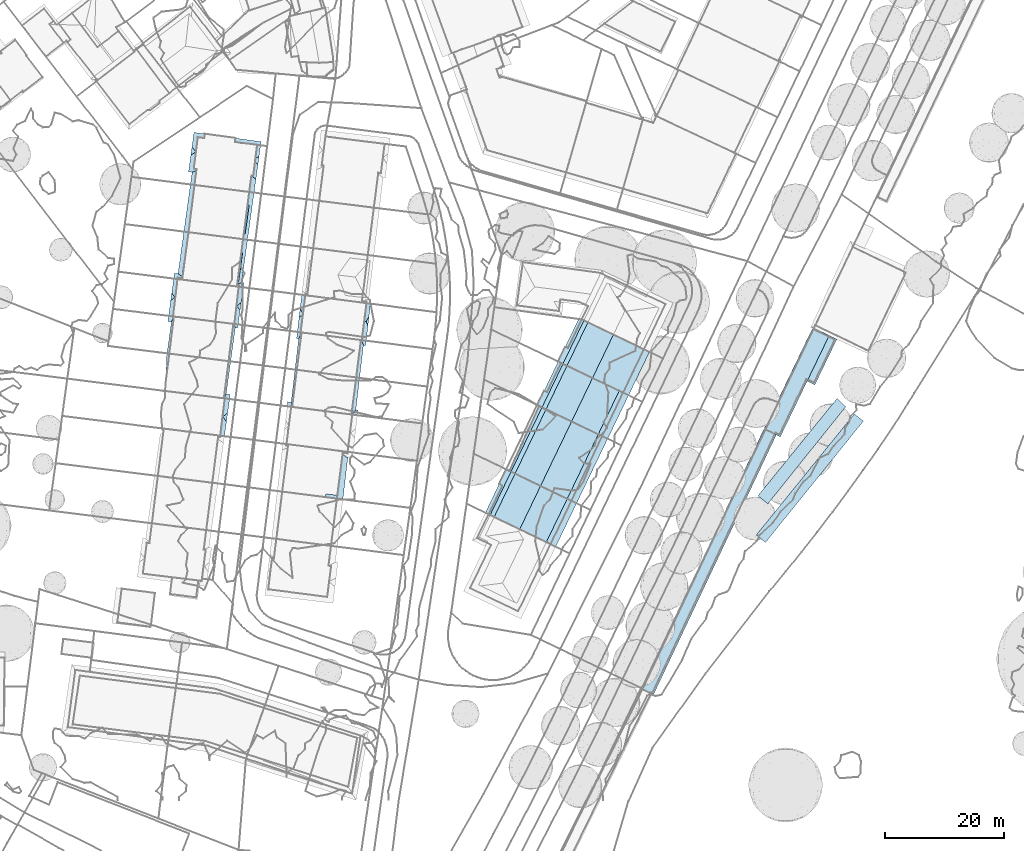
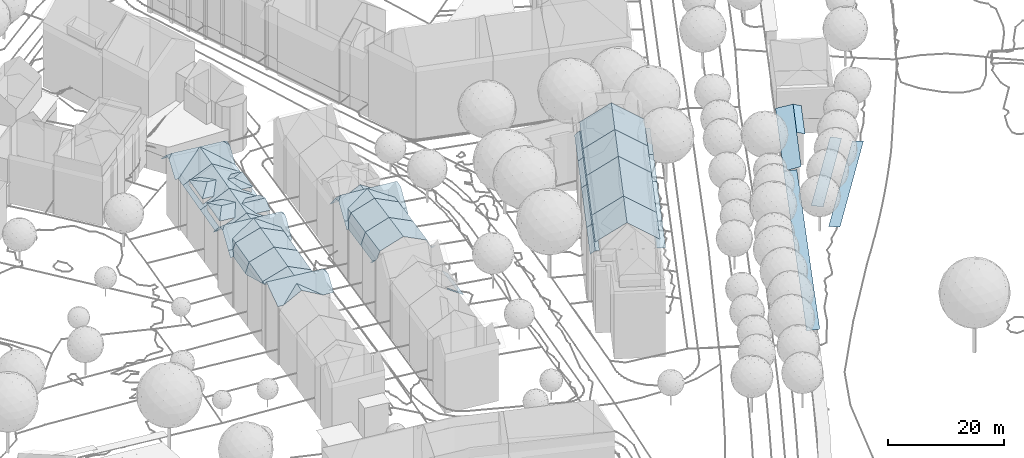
# Not in any storey, part 73 of 477: 27 roofs.
"""IFC4 building model written with IfcOpenShell, lengths in metres."""

from ifc_helpers import new_model, si_unit, frame, origin_with_axes, place, context, subcontext, project, spatial, polygons, element, save


model = new_model("IFC4")

# Units and contexts
model_context = context("Model", 3, precision=1e-05, world=origin_with_axes())
body_context = subcontext(model_context, "Body", "Model", "MODEL_VIEW")
ifc_project = project(units=[si_unit("AREAUNIT", "SQUARE_METRE"), si_unit("LENGTHUNIT", "METRE")], contexts=[model_context])

# Sites, building
site_1_placement = place(None, origin_with_axes())
site_1 = spatial("IfcSite", under=ifc_project, at=site_1_placement, Name="Topoexport Site")
site_2_placement = place(site_1_placement, origin_with_axes())
site_2 = spatial("IfcSite", under=site_1, at=site_2_placement, Name="TPX_BUILDINGS")
building_1_placement = place(site_2_placement, frame((495.5237320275, 54.2186160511, 497.0566), z_axis=(0.0, 0.0, 1.0), x_axis=(1.0, 0.0, 0.0)))
building_1 = spatial("IfcBuilding", under=site_2, at=building_1_placement, Name="Building 9", CompositionType="ELEMENT")

# Roofs
roof_1_placement = place(None, frame((495.5237320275, 54.2186160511, 497.0566), z_axis=(0.0, 0.0, 1.0), x_axis=(1.0, 0.0, 0.0)))
element("IfcRoof", 1, at=roof_1_placement, inside=building_1, Name="Roof 0", context=body_context, shape_type="Tessellation", body=[
    polygons([(0.805999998, -0.3886999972, 16.1765), (5.0979999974, 6.7939000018, 16.1765), (1.4809999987, -0.7148999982, 16.1765), (6.0159999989, 10.4266999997, 16.1765), (6.6919999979, 10.1035000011, 16.1765)], [[[3, 2, 1]], [[2, 5, 4]], [[2, 4, 1]]]),
])
roof_2_placement = place(None, frame((495.5237320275, 54.2186160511, 497.0566), z_axis=(0.0, 0.0, 1.0), x_axis=(1.0, 0.0, 0.0)))
element("IfcRoof", 2, at=roof_2_placement, inside=building_1, Name="Roof 1", context=body_context, shape_type="Tessellation", body=[
    polygons([(0.5759999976, -0.2784000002, 15.9745), (1.5599999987, 1.8789000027, 15.9345), (0.805999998, -0.3886999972, 16.1765), (2.8189999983, 4.638600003, 15.8845), (5.5590000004, 10.6464000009, 15.7755), (6.0159999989, 10.4266999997, 16.1765), (0.5370000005, -0.2588, 15.9395), (0.0, 0.0, 15.4665), (2.3440000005, 4.8662, 15.4665), (5.2080000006, 10.8144000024, 15.4665)], [[[3, 2, 1]], [[2, 3, 4]], [[4, 6, 5]], [[6, 4, 3]], [[1, 2, 7]], [[9, 8, 7]], [[7, 2, 9]], [[4, 5, 10]], [[10, 9, 4]], [[4, 9, 2]]]),
])
roof_3_placement = place(None, frame((495.5237320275, 54.2186160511, 497.0566), z_axis=(0.0, 0.0, 1.0), x_axis=(1.0, 0.0, 0.0)))
element("IfcRoof", 3, at=roof_3_placement, inside=building_1, Name="Roof 2", context=body_context, shape_type="Tessellation", body=[
    polygons([(11.8229999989, -5.7099999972, 16.1765), (10.2449999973, -4.9483000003, 16.1765), (12.2119999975, -0.8652999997, 16.1765), (15.4690000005, 5.8964000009, 16.1765), (17.0480000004, 5.1405999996, 16.1765)], [[[3, 2, 1]], [[5, 4, 3]], [[5, 3, 1]]]),
])
roof_4_placement = place(None, frame((495.5237320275, 54.2186160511, 497.0566), z_axis=(0.0, 0.0, 1.0), x_axis=(1.0, 0.0, 0.0)))
element("IfcRoof", 4, at=roof_4_placement, inside=building_1, Name="Roof 3", context=body_context, shape_type="Tessellation", body=[
    polygons([(16.1459999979, 5.5722000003, 18.0403), (10.9210000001, -5.2744999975, 18.0403), (10.2449999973, -4.9483000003, 18.5382), (10.9839999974, 8.0459000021, 21.8379), (5.7670000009, -2.7851999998, 21.8379), (15.4690000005, 5.8974000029, 18.5382), (6.6919999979, 10.1025000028, 18.5572), (1.4809999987, -0.7148999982, 18.5572), (0.805999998, -0.3886999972, 18.0403), (6.0159999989, 10.4266999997, 18.0403)], [[[3, 2, 1]], [[5, 3, 4]], [[3, 6, 4]], [[6, 3, 1]], [[8, 5, 7]], [[9, 8, 7]], [[7, 10, 9]], [[4, 7, 5]]]),
])

# Building
building_2_placement = place(site_2_placement, frame((504.2517320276, 72.3416160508, 498.9665), z_axis=(0.0, 0.0, 1.0), x_axis=(1.0, 0.0, 0.0)))
building_2 = spatial("IfcBuilding", under=site_2, at=building_2_placement, Name="Building 14", CompositionType="ELEMENT")

# Roofs
roof_5_placement = place(None, frame((504.2517320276, 72.3416160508, 498.9665), z_axis=(0.0, 0.0, 1.0), x_axis=(1.0, 0.0, 0.0)))
element("IfcRoof", 5, at=roof_5_placement, inside=building_2, Name="Roof 0", context=body_context, shape_type="Tessellation", body=[
    polygons([(1.1909999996, 2.4736000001, 13.5567), (0.8079999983, -0.3866999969, 14.2666), (0.0, 0.0, 13.5567), (3.9849999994, 7.0654000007, 13.9726), (4.0260000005, 7.0596000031, 14.0036), (3.4389999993, 7.1425999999, 13.5567), (4.3259999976, 6.9150000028, 14.2666), (5.0020000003, 6.5898000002, 14.2666), (1.4849999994, -0.7108999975, 14.2666)], [[[3, 2, 1]], [[1, 2, 4]], [[5, 4, 2]], [[6, 1, 4]], [[2, 7, 5]], [[7, 2, 8]], [[8, 2, 9]]]),
])
roof_6_placement = place(None, frame((504.2517320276, 72.3416160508, 498.9665), z_axis=(0.0, 0.0, 1.0), x_axis=(1.0, 0.0, 0.0)))
element("IfcRoof", 6, at=roof_6_placement, inside=building_2, Name="Roof 1", context=body_context, shape_type="Tessellation", body=[
    polygons([(15.3509999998, 1.6162, 14.2666), (11.8420000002, -5.6699000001, 14.2666), (11.3829999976, -4.306599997, 14.2666), (14.4289999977, 2.0596000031, 14.2666), (10.9389999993, -5.2372999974, 14.2666), (12.2359999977, -2.5263999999, 14.2076)], [[[3, 2, 1]], [[3, 1, 4]], [[5, 2, 3]], [[6, 5, 3]]]),
])
roof_7_placement = place(None, frame((504.2517320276, 72.3416160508, 498.9665), z_axis=(0.0, 0.0, 1.0), x_axis=(1.0, 0.0, 0.0)))
element("IfcRoof", 7, at=roof_7_placement, inside=building_2, Name="Roof 2", context=body_context, shape_type="Tessellation", body=[
    polygons([(10.9389999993, -5.2372999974, 16.1304), (14.4289999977, 2.0596000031, 16.1454), (14.4499999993, 2.0488000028, 16.1304), (5.7769999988, -2.7655999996, 19.927), (9.2909999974, 4.5293000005, 19.927), (1.4849999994, -0.7108999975, 16.6474), (4.3259999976, 6.9150000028, 16.1304), (5.0020000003, 6.5898000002, 16.6474), (0.8079999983, -0.3866999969, 16.1304)], [[[3, 2, 1]], [[5, 4, 1]], [[5, 1, 2]], [[8, 7, 6]], [[5, 8, 4]], [[6, 4, 8]], [[9, 6, 7]]]),
])

# Building
building_3_placement = place(site_2_placement, frame((500.7317320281, 65.0330160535, 498.9665), z_axis=(0.0, 0.0, 1.0), x_axis=(1.0, 0.0, 0.0)))
building_3 = spatial("IfcBuilding", under=site_2, at=building_3_placement, Name="Building 16", CompositionType="ELEMENT")

# Roofs
roof_8_placement = place(None, frame((500.7317320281, 65.0330160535, 498.9665), z_axis=(0.0, 0.0, 1.0), x_axis=(1.0, 0.0, 0.0)))
element("IfcRoof", 8, at=roof_8_placement, inside=building_3, Name="Roof 0", context=body_context, shape_type="Tessellation", body=[
    polygons([(1.175999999, 2.441399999, 13.5566), (0.8079999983, -0.3877000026, 14.2666), (0.0, 0.0, 13.5566), (4.3279999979, 6.9219000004, 14.2666), (3.5199999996, 7.3085999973, 13.5567), (4.0119999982, 7.0722999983, 13.9886), (3.4439999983, 3.3583999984, 14.2666), (1.4839999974, -0.7109000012, 14.2666), (5.004999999, 6.5976999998, 14.2666)], [[[3, 2, 1]], [[1, 2, 4]], [[6, 5, 1]], [[4, 6, 1]], [[4, 2, 7]], [[7, 2, 8]], [[7, 9, 4]]]),
])
roof_9_placement = place(None, frame((500.7317320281, 65.0330160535, 498.9665), z_axis=(0.0, 0.0, 1.0), x_axis=(1.0, 0.0, 0.0)))
element("IfcRoof", 9, at=roof_9_placement, inside=building_3, Name="Roof 1", context=body_context, shape_type="Tessellation", body=[
    polygons([(15.3619999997, 1.6386999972, 14.2666), (11.8399999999, -5.6738000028, 14.2666), (13.7829999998, 2.3944999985, 14.2666), (10.2609999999, -4.9180000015, 14.2666)], [[[3, 2, 1]], [[2, 3, 4]]]),
])
roof_10_placement = place(None, frame((500.7317320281, 65.0330160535, 498.9665), z_axis=(0.0, 0.0, 1.0), x_axis=(1.0, 0.0, 0.0)))
element("IfcRoof", 10, at=roof_10_placement, inside=building_3, Name="Roof 2", context=body_context, shape_type="Tessellation", body=[
    polygons([(10.2609999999, -4.9180000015, 16.6273), (5.7759999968, -2.7685000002, 19.928), (9.2969999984, 4.5429999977, 19.927), (10.9379999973, -5.2422000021, 16.1304), (13.7829999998, 2.3944999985, 16.6283), (14.4599999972, 2.0702999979, 16.1304), (1.4839999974, -0.7109000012, 16.6473), (0.8079999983, -0.3877000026, 16.1304), (4.3279999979, 6.9219000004, 16.1304), (5.004999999, 6.5976999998, 16.6474)], [[[3, 2, 1]], [[5, 1, 4]], [[5, 3, 1]], [[6, 5, 4]], [[9, 8, 7]], [[10, 7, 2]], [[7, 10, 9]], [[10, 2, 3]]]),
])

# Building
building_4_placement = place(site_2_placement, frame((492.5717320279, 46.6580160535, 498.9665), z_axis=(0.0, 0.0, 1.0), x_axis=(1.0, 0.0, 0.0)))
building_4 = spatial("IfcBuilding", under=site_2, at=building_4_placement, Name="Building 17", CompositionType="ELEMENT")

# Roofs
roof_11_placement = place(None, frame((492.5717320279, 46.6580160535, 498.9665), z_axis=(0.0, 0.0, 1.0), x_axis=(1.0, 0.0, 0.0)))
element("IfcRoof", 11, at=roof_11_placement, inside=building_4, Name="Roof 0", context=body_context, shape_type="Tessellation", body=[
    polygons([(0.2469999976, -0.1191000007, 14.2666), (3.5279999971, 7.2821999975, 14.0646), (3.7579999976, 7.1719000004, 14.2666), (0.1689999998, -0.0820000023, 14.1986), (0.0, 0.0, 14.0496), (1.7639999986, 5.0946999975, 13.5566), (-0.5590000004, 0.2694999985, 13.5566), (2.9519999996, 7.5605999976, 13.5566), (4.4329999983, 6.8456999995, 14.2666), (0.9230000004, -0.4453000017, 14.2666)], [[[3, 2, 1]], [[4, 1, 2]], [[5, 4, 2]], [[7, 5, 6]], [[5, 8, 6]], [[8, 5, 2]], [[9, 3, 1]], [[10, 9, 1]]]),
])
roof_12_placement = place(None, frame((492.5717320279, 46.6580160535, 498.9665), z_axis=(0.0, 0.0, 1.0), x_axis=(1.0, 0.0, 0.0)))
element("IfcRoof", 12, at=roof_12_placement, inside=building_4, Name="Roof 1", context=body_context, shape_type="Tessellation", body=[
    polygons([(13.1979999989, 2.6122999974, 14.2666), (14.7749999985, 1.8506000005, 14.2666), (9.6889999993, -4.6719000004, 14.2665), (11.2669999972, -5.433600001, 14.2665)], [[[3, 2, 1]], [[3, 4, 2]]]),
])
roof_13_placement = place(None, frame((492.5717320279, 46.6580160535, 498.9665), z_axis=(0.0, 0.0, 1.0), x_axis=(1.0, 0.0, 0.0)))
element("IfcRoof", 13, at=roof_13_placement, inside=building_4, Name="Roof 2", context=body_context, shape_type="Tessellation", body=[
    polygons([(13.8729999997, 2.2861000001, 16.1304), (9.6889999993, -4.6719000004, 16.6283), (13.1979999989, 2.6122999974, 16.6283), (8.7190000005, 4.7753999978, 19.928), (5.2089999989, -2.5127000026, 19.928), (10.3649999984, -4.9979999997, 16.1304), (0.9230000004, -0.4453000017, 16.6473), (4.4329999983, 6.8456999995, 16.6473), (3.7579999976, 7.1719000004, 16.1304), (0.2469999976, -0.1191000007, 16.1304)], [[[3, 2, 1]], [[5, 3, 4]], [[2, 6, 1]], [[5, 2, 3]], [[8, 7, 4]], [[10, 8, 9]], [[7, 5, 4]], [[10, 7, 8]]]),
])

# Building
building_5_placement = place(site_2_placement, frame((211.8297320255, 101.9383160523, 526.7541), z_axis=(0.0, 0.0, 1.0), x_axis=(1.0, 0.0, 0.0)))
building_5 = spatial("IfcBuilding", under=site_2, at=building_5_placement, Name="Building 18", CompositionType="ELEMENT")

# Roofs
roof_14_placement = place(None, frame((211.8297320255, 101.9383160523, 526.7541), z_axis=(0.0, 0.0, 1.0), x_axis=(1.0, 0.0, 0.0)))
element("IfcRoof", 14, at=roof_14_placement, inside=building_5, Name="Roof 62", context=body_context, shape_type="Tessellation", body=[
    polygons([(342.2039999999, -38.3740000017, -22.0733), (327.2760000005, -59.9833999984, -21.9033), (325.7380000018, -58.7030999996, -22.0753), (343.7420000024, -39.5694000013, -21.9053)], [[[3, 2, 1]], [[4, 1, 2]]]),
])
roof_15_placement = place(None, frame((211.8297320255, 101.9383160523, 526.7541), z_axis=(0.0, 0.0, 1.0), x_axis=(1.0, 0.0, 0.0)))
element("IfcRoof", 15, at=roof_15_placement, inside=building_5, Name="Roof 63", context=body_context, shape_type="Tessellation", body=[
    polygons([(326.012000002, -52.1376999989, -21.7343), (339.3080000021, -35.7685999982, -21.7343), (340.7730000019, -37.1563000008, -21.7343), (327.6770000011, -53.4814999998, -21.7343)], [[[3, 2, 1]], [[1, 4, 3]]]),
])
roof_16_placement = place(None, frame((211.8297320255, 101.9383160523, 526.7541), z_axis=(0.0, 0.0, 1.0), x_axis=(1.0, 0.0, 0.0)))
element("IfcRoof", 16, at=roof_16_placement, inside=building_5, Name="Roof 65", context=body_context, shape_type="Tessellation", body=[
    polygons([(335.1650000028, -24.5771999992, -21.4983), (335.2440000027, -23.8379000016, -21.5603), (337.9959999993, -25.1651000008, -20.7984), (334.393000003, -32.6328000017, -20.7984), (334.2840000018, -32.8574000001, -20.7984), (334.3120000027, -32.5938000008, -20.8204), (327.6119999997, -40.2362999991, -21.5403), (333.6909999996, -33.5137000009, -20.8644), (327.0170000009, -40.8944999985, -21.6063), (335.574000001, -33.4794999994, -21.2213), (339.2840000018, -25.7861000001, -21.2213), (329.0910000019, -41.8964999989, -20.9864), (332.5610000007, -35.8555000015, -20.8604), (329.7690000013, -42.2226999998, -20.7984), (327.2420000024, -41.003899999, -21.5393), (310.5970000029, -80.4120999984, -21.4233), (329.0910000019, -41.8964999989, -21.3993), (308.4730000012, -85.5243999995, -21.3993), (324.995000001, -45.7617000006, -21.5833), (328.0210000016, -41.379900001, -21.5063), (328.8660000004, -41.7870999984, -21.4213), (327.2420000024, -41.003899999, -21.5843), (308.262000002, -85.4862999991, -21.4213), (308.0360000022, -85.378899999, -21.4493), (306.381000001, -84.5868999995, -21.6513), (328.8660000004, -41.7870999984, -21.6213), (328.5730000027, -41.6455000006, -21.6293), (327.4970000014, -41.1270000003, -21.6663)], [[[3, 2, 1]], [[6, 5, 4]], [[3, 1, 4]], [[4, 1, 6]], [[1, 2, 7]], [[6, 1, 8]], [[9, 7, 2]], [[5, 6, 8]], [[8, 1, 7]], [[5, 10, 4]], [[4, 10, 3]], [[11, 3, 10]], [[14, 13, 12]], [[13, 14, 5]], [[5, 8, 13]], [[13, 8, 7]], [[7, 9, 15]], [[12, 13, 15]], [[13, 7, 15]], [[18, 17, 16]], [[20, 19, 16]], [[16, 17, 21]], [[20, 22, 19]], [[22, 9, 19]], [[20, 16, 21]], [[18, 16, 23]], [[23, 16, 24]], [[19, 9, 25]], [[25, 24, 19]], [[19, 24, 16]], [[28, 27, 26]]]),
])

# Building
building_6_placement = place(site_2_placement, frame((439.5667320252, 79.9246160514, 499.5705), z_axis=(0.0, 0.0, 1.0), x_axis=(1.0, 0.0, 0.0)))
building_6 = spatial("IfcBuilding", under=site_2, at=building_6_placement, Name="Building 44", CompositionType="ELEMENT")

# Roof
roof_17_placement = place(None, frame((439.5667320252, 79.9246160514, 499.5705), z_axis=(0.0, 0.0, 1.0), x_axis=(1.0, 0.0, 0.0)))
element("IfcRoof", 17, at=roof_17_placement, inside=building_6, Name="Roof 0", context=body_context, shape_type="Tessellation", body=[
    polygons([(6.074000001, 5.6016000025, 14.5366), (9.949000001, 5.1162, 12.2668), (5.7740000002, 3.4365000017, 14.5366), (2.3210000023, 6.0713, 12.3688), (5.6410000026, 2.4824000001, 15.5125), (9.7310000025, 0.0752000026, 13.5987), (9.5560000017, -1.1875, 13.5987), (5.2080000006, -0.6464999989, 15.5125), (0.7019999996, 1.2050999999, 13.5987), (0.5260000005, -0.0643999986, 13.5987), (0.0, 0.0, 12.3268), (-0.7819999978, 0.0967000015, 12.3158), (-0.4230000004, 2.6963, 14.9015), (0.1130000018, -0.0136999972, 12.3288), (0.262000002, 3.2276000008, 15.5125), (10.7010000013, 1.7822000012, 15.5135), (-0.2449999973, 3.9697000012, 14.8376), (0.0850000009, 6.3516000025, 12.3968), (11.4240000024, 2.3544999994, 14.8375), (11.0370000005, 4.9805000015, 12.2518), (11.7750000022, 4.8867000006, 12.2428), (10.2280000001, -1.2714999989, 12.2698), (11.2470000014, 1.0800999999, 14.8615), (10.3030000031, -1.2811999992, 12.2708), (10.9090000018, -1.3563999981, 12.2788)], [[[3, 2, 1]], [[4, 3, 1]], [[7, 6, 5]], [[5, 8, 7]], [[8, 5, 9]], [[9, 10, 8]], [[9, 12, 11]], [[9, 13, 12]], [[11, 14, 9]], [[5, 15, 13]], [[13, 9, 5]], [[16, 3, 5]], [[3, 15, 5]], [[3, 17, 15]], [[17, 4, 18]], [[17, 3, 4]], [[3, 19, 2]], [[19, 3, 16]], [[2, 19, 20]], [[20, 19, 21]], [[22, 6, 7]], [[5, 6, 16]], [[16, 6, 23]], [[25, 6, 24]], [[23, 6, 25]], [[24, 6, 22]], [[23, 19, 16]], [[9, 14, 10]], [[17, 13, 15]]]),
])

# Building
building_7_placement = place(site_2_placement, frame((440.3257320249, 86.1922160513, 499.5705), z_axis=(0.0, 0.0, 1.0), x_axis=(1.0, 0.0, 0.0)))
building_7 = spatial("IfcBuilding", under=site_2, at=building_7_placement, Name="Building 45", CompositionType="ELEMENT")

# Roof
roof_18_placement = place(None, frame((440.3257320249, 86.1922160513, 499.5705), z_axis=(0.0, 0.0, 1.0), x_axis=(1.0, 0.0, 0.0)))
element("IfcRoof", 18, at=roof_18_placement, inside=building_7, Name="Roof 0", context=body_context, shape_type="Tessellation", body=[
    polygons([(8.2420000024, 4.8280999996, 13.2887), (6.1760000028, 2.5243999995, 14.2946), (6.4160000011, 7.2919999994, 14.5366), (5.3150000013, -0.6659999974, 14.5366), (11.0130000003, 6.7030999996, 11.8428), (10.7250000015, 4.4932000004, 11.8318), (11.7290000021, 6.6113000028, 11.4229), (8.5830000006, 4.7822000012, 13.0887), (10.7410000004, -0.5273999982, 11.4229), (7.5610000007, -0.0878999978, 13.2887), (7.9030000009, -0.1347999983, 13.0887), (9.1900000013, -1.1513999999, 12.2668), (10.0840000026, -0.4355999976, 11.8088), (3.5700000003, 0.4648000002, 13.4567), (1.5620000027, -0.1963, 12.3688), (5.450000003, 3.3877000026, 14.2946), (3.2230000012, 0.5127000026, 13.2567), (0.9070000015, 0.8340000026, 11.9158), (0.8420000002, 0.3535000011, 11.9158), (0.0560000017, 0.9521000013, 11.4229), (1.7050000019, 6.7637000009, 11.9018), (4.3950000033, 6.4238000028, 13.4567), (4.0490000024, 6.4678000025, 13.2567), (1.0300000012, 7.9814000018, 11.4229), (2.8220000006, 3.7217000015, 14.2946), (1.7050000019, 6.7637000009, 13.4567), (1.5830000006, 6.7783000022, 13.4567), (0.9420000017, 1.1035000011, 13.5297), (0.7630000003, 0.8535000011, 13.4567), (10.7250000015, 4.4932000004, 13.2887), (10.5560000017, 1.9345999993, 14.2946), (10.9070000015, 4.4697000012, 13.2887), (0.9060000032, 0.8340000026, 13.4567), (10.0840000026, -0.4355999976, 13.2887), (10.2250000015, -0.4550999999, 13.2887), (11.0160000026, -1.3808999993, 12.2418), (11.1270000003, -0.5800999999, 11.4229), (0.0, 0.0, 12.3878), (-0.5429999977, 1.0331999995, 11.4229), (-0.6739999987, 0.0840000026, 12.3968)], [[[3, 2, 1]], [[2, 3, 4]], [[3, 1, 5]], [[7, 5, 6]], [[8, 6, 5]], [[5, 1, 8]], [[7, 6, 9]], [[12, 11, 10]], [[4, 10, 2]], [[12, 10, 4]], [[13, 9, 6]], [[12, 9, 13]], [[13, 11, 12]], [[15, 4, 14]], [[14, 4, 16]], [[15, 14, 17]], [[19, 15, 18]], [[18, 20, 19]], [[21, 20, 18]], [[15, 17, 18]], [[16, 3, 22]], [[3, 16, 4]], [[22, 3, 23]], [[21, 23, 24]], [[23, 3, 24]], [[21, 24, 20]], [[16, 22, 25]], [[25, 22, 26]], [[26, 27, 25]], [[28, 25, 27]], [[29, 28, 27]], [[1, 31, 30]], [[31, 1, 2]], [[31, 32, 30]], [[14, 16, 28]], [[28, 16, 25]], [[28, 29, 33]], [[28, 33, 14]], [[31, 2, 34]], [[34, 2, 10]], [[35, 31, 34]], [[12, 36, 9]], [[37, 9, 36]], [[38, 15, 19]], [[40, 38, 39]], [[19, 20, 39]], [[19, 39, 38]]]),
])

# Building
building_8_placement = place(site_2_placement, frame((442.1807320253, 94.0682160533, 499.5705), z_axis=(0.0, 0.0, 1.0), x_axis=(1.0, 0.0, 0.0)))
building_8 = spatial("IfcBuilding", under=site_2, at=building_8_placement, Name="Building 46", CompositionType="ELEMENT")

# Roof
roof_19_placement = place(None, frame((442.1807320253, 94.0682160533, 499.5705), z_axis=(0.0, 0.0, 1.0), x_axis=(1.0, 0.0, 0.0)))
element("IfcRoof", 19, at=roof_19_placement, inside=building_8, Name="Roof 0", context=body_context, shape_type="Tessellation", body=[
    polygons([(8.075000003, 4.927699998, 12.9527), (5.6590000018, 7.3456999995, 14.5366), (10.1900000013, 6.7645999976, 11.8809), (6.1710000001, 2.7567999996, 13.8767), (8.4150000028, 4.8797999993, 12.7528), (9.9170000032, 4.6688999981, 11.8708), (10.9720000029, 6.6640000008, 11.4229), (9.8740000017, -1.2646999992, 11.4229), (7.3949999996, 0.0174999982, 12.9527), (4.5610000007, -0.5840000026, 14.5366), (9.1579999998, -1.1729000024, 11.8428), (7.7360000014, -0.0303000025, 12.7528), (9.2780000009, -0.2470999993, 11.8468), (0.8740000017, 6.9442999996, 11.8499), (0.2730000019, 8.0350999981, 11.4229), (0.9990000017, 7.9422999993, 11.8429), (0.6770000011, 5.4061999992, 11.8589), (0.443, 3.5506999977, 11.8729), (2.5789999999, 6.7148000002, 12.8368), (4.2470000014, 3.4217999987, 14.0426), (2.9250000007, 6.6678999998, 13.0367), (-0.8249999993, 0.1053999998, 11.4229), (0.0990000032, 0.7909999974, 11.8939), (0.0, 0.0, 11.8999), (1.7280000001, 0.5702999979, 12.8368), (2.075000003, 0.5233999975, 13.0367), (2.6030000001, 3.6435000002, 14.0426), (0.8420000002, 6.9481999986, 13.0367), (0.8740000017, 6.9442999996, 13.0367), (-0.0079999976, 0.8055999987, 13.0367), (0.1000000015, 0.7909999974, 13.0367), (7.3030000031, 2.5975999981, 13.8767), (9.4850000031, -0.2763999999, 12.9527), (9.2780000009, -0.2470999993, 12.9527), (10.1650000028, 4.6338, 12.9527), (9.9170000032, 4.6688999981, 12.9527), (8.9620000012, -0.2032000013, 12.9027)], [[[3, 2, 1]], [[1, 2, 4]], [[3, 1, 5]], [[7, 3, 6]], [[6, 3, 5]], [[7, 6, 8]], [[4, 10, 9]], [[10, 4, 2]], [[9, 10, 11]], [[13, 12, 11]], [[11, 8, 13]], [[12, 9, 11]], [[13, 8, 6]], [[16, 15, 14]], [[17, 14, 15]], [[15, 18, 17]], [[16, 14, 19]], [[2, 21, 20]], [[2, 16, 21]], [[16, 19, 21]], [[2, 20, 10]], [[23, 18, 22]], [[23, 22, 24]], [[18, 15, 22]], [[26, 25, 24]], [[24, 10, 26]], [[25, 23, 24]], [[10, 20, 26]], [[29, 28, 27]], [[21, 27, 20]], [[27, 21, 29]], [[28, 30, 27]], [[20, 27, 26]], [[26, 27, 31]], [[30, 31, 27]], [[34, 33, 32]], [[34, 4, 9]], [[4, 34, 32]], [[35, 32, 33]], [[1, 4, 36]], [[36, 4, 32]], [[35, 36, 32]], [[37, 34, 12]]]),
])

# Building
building_9_placement = place(site_2_placement, frame((438.9377320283, 73.6600160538, 499.5705), z_axis=(0.0, 0.0, 1.0), x_axis=(1.0, 0.0, 0.0)))
building_9 = spatial("IfcBuilding", under=site_2, at=building_9_placement, Name="Building 47", CompositionType="ELEMENT")

# Roof
roof_20_placement = place(None, frame((438.9377320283, 73.6600160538, 499.5705), z_axis=(0.0, 0.0, 1.0), x_axis=(1.0, 0.0, 0.0)))
element("IfcRoof", 20, at=roof_20_placement, inside=building_9, Name="Roof 0", context=body_context, shape_type="Tessellation", body=[
    polygons([(5.8369999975, 5.6180999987, 15.5125), (9.3189999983, -1.1739000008, 13.5977), (4.9719999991, -0.6270000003, 15.5125), (10.1849999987, 5.0770999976, 13.5987), (1.1549999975, 6.2001999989, 13.5987), (0.2919999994, -0.0381000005, 13.5987), (0.6269999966, 6.0126999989, 12.0808), (-0.1530000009, 6.3612999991, 12.3158), (0.6289999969, 6.2645999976, 12.3268), (0.7419999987, 6.2509000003, 12.3288), (0.3209999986, 5.3807999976, 11.4229), (-0.2770000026, 5.4637999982, 11.4229), (0.0, 0.0, 12.7017), (-0.4160000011, 0.0516999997, 11.4229), (11.5379999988, 4.9081999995, 12.2788), (11.0749999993, 4.4003999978, 11.6868), (10.9149999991, 4.8348999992, 12.1148), (11.4609999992, 4.3486000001, 11.6868), (10.856999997, 4.9930999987, 12.2698), (10.932, 4.9833999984, 12.2708), (9.9670000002, -1.255900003, 12.3178), (10.2859999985, -1.2959000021, 11.6868)], [[[3, 2, 1]], [[4, 1, 2]], [[6, 3, 5]], [[1, 5, 3]], [[9, 8, 7]], [[10, 9, 7]], [[8, 11, 7]], [[11, 8, 12]], [[13, 6, 5]], [[14, 13, 7]], [[10, 7, 13]], [[11, 14, 7]], [[13, 5, 10]], [[17, 16, 15]], [[15, 16, 18]], [[17, 20, 19]], [[20, 17, 15]], [[17, 19, 21]], [[21, 19, 4]], [[21, 16, 17]], [[22, 16, 21]], [[21, 4, 2]]]),
])

# Building
building_10_placement = place(site_2_placement, frame((438.2527320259, 67.3914160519, 499.5705), z_axis=(0.0, 0.0, 1.0), x_axis=(1.0, 0.0, 0.0)))
building_10 = spatial("IfcBuilding", under=site_2, at=building_10_placement, Name="Building 48", CompositionType="ELEMENT")

# Roof
roof_21_placement = place(None, frame((438.2527320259, 67.3914160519, 499.5705), z_axis=(0.0, 0.0, 1.0), x_axis=(1.0, 0.0, 0.0)))
element("IfcRoof", 21, at=roof_21_placement, inside=building_10, Name="Roof 0", context=body_context, shape_type="Tessellation", body=[
    polygons([(4.7919999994, -0.6024999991, 15.5125), (0.9770000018, 6.2305000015, 13.5987), (5.6570000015, 5.6416000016, 15.5125), (0.1119999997, -0.0137000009, 13.5987), (9.1400000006, -1.1493999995, 13.5976), (10.0040000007, 5.0947000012, 13.5977), (9.8940000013, -0.9296999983, 12.1918), (10.7930000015, -1.3574000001, 12.4907), (10.0040000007, -1.2588, 12.4997), (9.693, -1.2197000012, 12.5037), (10.2190000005, -0.4600000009, 11.6868), (10.9039999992, -0.552699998, 11.6868), (0.0, 0.0, 13.2537), (0.0410000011, 1.1455000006, 12.8987), (0.2109999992, 5.8993999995, 11.4229), (0.6850000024, 6.2686000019, 12.7017), (0.2690000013, 6.3203000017, 11.4229), (10.6520000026, 5.0126999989, 12.3178), (10.9710000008, 4.9726999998, 11.6868)], [[[3, 2, 1]], [[4, 1, 2]], [[6, 3, 5]], [[1, 5, 3]], [[9, 8, 7]], [[10, 9, 7]], [[7, 12, 11]], [[12, 7, 8]], [[14, 13, 2]], [[2, 13, 4]], [[16, 15, 14]], [[17, 15, 16]], [[16, 14, 2]], [[18, 6, 10]], [[19, 18, 11]], [[10, 7, 18]], [[11, 18, 7]], [[6, 5, 10]]]),
])

# Building
building_11_placement = place(site_2_placement, frame((443.0627320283, 104.7566160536, 499.5705), z_axis=(0.0, 0.0, 1.0), x_axis=(1.0, 0.0, 0.0)))
building_11 = spatial("IfcBuilding", under=site_2, at=building_11_placement, Name="Building 49", CompositionType="ELEMENT")

# Roof
roof_22_placement = place(None, frame((443.0627320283, 104.7566160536, 499.5705), z_axis=(0.0, 0.0, 1.0), x_axis=(1.0, 0.0, 0.0)))
element("IfcRoof", 22, at=roof_22_placement, inside=building_11, Name="Roof 0", context=body_context, shape_type="Tessellation", body=[
    polygons([(9.6659999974, -1.1816000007, 11.8959), (10.75, 0.745199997, 13.8817), (10.3999999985, -1.7851000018, 11.4229), (10.0899999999, -4.0243999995, 11.4229), (9.3079999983, -3.9238000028, 11.8809), (4.7769999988, -3.3427000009, 14.5366), (5.5379999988, 2.1534000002, 14.5366), (9.8779999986, 1.5517999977, 14.5366), (10.2789999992, 1.1807000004, 14.2356), (6.987999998, 5.1581999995, 11.4229), (10.3559999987, 1.7900999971, 14.2416), (10.9349999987, 2.0771999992, 13.8847), (11.2789999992, 4.5634999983, 11.4229), (0.4339999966, -0.2275000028, 11.8249), (-0.3220000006, -0.5800000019, 11.4229), (-0.9220000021, -0.4970000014, 11.4229), (0.3449999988, 2.8720999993, 14.5366), (-0.5320000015, 2.3066999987, 13.9337), (0.1169999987, -2.746100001, 11.8429), (-0.6090000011, -2.6533000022, 11.4229), (1.8369999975, 5.8720999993, 11.4229), (-0.3490000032, 3.6376999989, 13.8847), (-0.0050000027, 6.1270000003, 11.4229)], [[[3, 2, 1]], [[1, 4, 3]], [[1, 6, 5]], [[4, 1, 5]], [[8, 7, 1]], [[9, 1, 2]], [[1, 9, 8]], [[8, 10, 7]], [[10, 8, 11]], [[9, 2, 12]], [[9, 11, 8]], [[11, 9, 12]], [[12, 10, 11]], [[10, 12, 13]], [[16, 15, 14]], [[16, 14, 7]], [[18, 7, 17]], [[7, 18, 16]], [[6, 7, 19]], [[19, 7, 14]], [[20, 19, 14]], [[20, 14, 15]], [[6, 1, 7]], [[21, 7, 10]], [[7, 21, 17]], [[17, 21, 22]], [[22, 21, 23]], [[22, 18, 17]]]),
])

# Building
building_12_placement = place(site_2_placement, frame((437.5277320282, 63.6443160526, 499.5705), z_axis=(0.0, 0.0, 1.0), x_axis=(1.0, 0.0, 0.0)))
building_12 = spatial("IfcBuilding", under=site_2, at=building_12_placement, Name="Building 50", CompositionType="ELEMENT")

# Roof
roof_23_placement = place(None, frame((437.5277320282, 63.6443160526, 499.5705), z_axis=(0.0, 0.0, 1.0), x_axis=(1.0, 0.0, 0.0)))
element("IfcRoof", 23, at=roof_23_placement, inside=building_12, Name="Roof 0", context=body_context, shape_type="Tessellation", body=[
    polygons([(9.9599999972, -3.7666000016, 12.4687), (10.9899999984, -1.4101000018, 14.7795), (10.6529999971, -3.8535000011, 12.4777), (8.6629999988, -3.6044999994, 12.4527), (4.9649999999, -0.8476000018, 14.5296), (10.4149999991, -0.5390000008, 15.5125), (5.1089999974, 0.1953000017, 15.5125), (-0.0840000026, 0.9151000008, 15.5135), (4.6529999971, -3.1035000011, 14.5296), (11.1989999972, 0.0870000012, 14.7915), (9.7139999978, 1.5108000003, 13.5976), (10.4179999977, 2.5273999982, 12.5037), (10.7289999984, 2.4882999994, 12.4997), (11.5179999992, 2.3896999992, 12.4907), (4.1439999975, -3.0399999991, 14.1926), (1.2969999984, -2.683600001, 12.3228), (0.2329999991, -2.5507000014, 12.3058), (0.0, 0.0, 14.6665), (5.5169999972, 3.1446000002, 15.5125), (9.8649999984, 2.5976999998, 13.5976), (0.6849999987, 2.6347999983, 13.5987), (0.8369999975, 3.7333999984, 13.5987), (0.1939999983, 1.5361999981, 14.8215), (0.7249999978, 3.7470999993, 13.2537)], [[[3, 2, 1]], [[4, 1, 2]], [[2, 6, 5]], [[4, 2, 5]], [[8, 5, 7]], [[5, 6, 7]], [[4, 5, 9]], [[11, 7, 10]], [[13, 12, 11]], [[11, 14, 13]], [[14, 11, 10]], [[10, 7, 6]], [[5, 16, 15]], [[5, 15, 9]], [[16, 18, 17]], [[18, 16, 5]], [[8, 18, 5]], [[19, 7, 11]], [[11, 20, 19]], [[22, 21, 7]], [[7, 19, 22]], [[2, 10, 6]], [[11, 12, 20]], [[8, 7, 23]], [[21, 23, 7]], [[24, 21, 22]]]),
])

# Building
building_13_placement = place(site_2_placement, frame((460.3767320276, 70.9432160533, 499.4055), z_axis=(0.0, 0.0, 1.0), x_axis=(1.0, 0.0, 0.0)))
building_13 = spatial("IfcBuilding", under=site_2, at=building_13_placement, Name="Building 52", CompositionType="ELEMENT")

# Roof
roof_24_placement = place(None, frame((460.3767320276, 70.9432160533, 499.4055), z_axis=(0.0, 0.0, 1.0), x_axis=(1.0, 0.0, 0.0)))
element("IfcRoof", 24, at=roof_24_placement, inside=building_13, Name="Roof 0", context=body_context, shape_type="Tessellation", body=[
    polygons([(10.112999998, 5.0868999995, 14.1246), (9.3729999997, -1.2061000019, 14.1246), (4.932, -0.6358000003, 16.0924), (5.6710000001, 5.6532999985, 16.0924), (0.5439999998, -0.0703000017, 14.2016), (1.2829999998, 6.2137999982, 14.2016), (0.2639999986, 5.2870999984, 11.5829), (0.0, 0.0, 12.6107), (-0.3520000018, 0.0449000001, 11.5828), (0.6490000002, 6.0419999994, 12.4368), (0.7709999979, 6.2782999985, 12.7047), (0.6359999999, 6.2967999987, 12.7067), (0.0539999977, 6.370099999, 12.7127), (-0.069000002, 5.3270999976, 11.5829), (11.1609999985, 4.1728000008, 11.5828), (10.9010000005, 4.8827999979, 12.3378), (11.5319999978, 4.128899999, 11.5828), (11.6219999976, 4.8944999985, 12.4458), (10.8609999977, 4.9912, 12.4538), (10.9140000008, 4.9842999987, 12.4538), (9.9679999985, -1.2831999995, 12.7957), (10.5109999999, -1.3535999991, 11.5828)], [[[3, 2, 1]], [[1, 4, 3]], [[5, 3, 4]], [[4, 6, 5]], [[8, 5, 7]], [[9, 8, 7]], [[6, 11, 10]], [[10, 7, 6]], [[6, 7, 5]], [[12, 10, 11]], [[10, 12, 13]], [[10, 14, 7]], [[14, 10, 13]], [[17, 16, 15]], [[16, 17, 18]], [[20, 19, 16]], [[20, 16, 18]], [[19, 21, 16]], [[21, 19, 1]], [[21, 15, 16]], [[22, 15, 21]], [[21, 1, 2]]]),
])

# Building
building_14_placement = place(site_2_placement, frame((457.923732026, 50.4715160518, 499.4055), z_axis=(0.0, 0.0, 1.0), x_axis=(1.0, 0.0, 0.0)))
building_14 = spatial("IfcBuilding", under=site_2, at=building_14_placement, Name="Building 56", CompositionType="ELEMENT")

# Roof
roof_25_placement = place(None, frame((457.923732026, 50.4715160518, 499.4055), z_axis=(0.0, 0.0, 1.0), x_axis=(1.0, 0.0, 0.0)))
element("IfcRoof", 25, at=roof_25_placement, inside=building_14, Name="Roof 0", context=body_context, shape_type="Tessellation", body=[
    polygons([(10.1660000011, -1.2949000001, 11.5828), (10.6740000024, 5.8720999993, 11.7648), (10.993999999, 5.7479999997, 11.5828), (9.9699999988, -1.2694999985, 11.6908), (10.0870000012, 5.9248000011, 12.1488), (9.9790000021, 5.9354999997, 12.2188), (10.1339999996, 6.2998000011, 12.1458), (9.2679999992, -0.5762000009, 12.1958), (7.0859999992, -0.9013999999, 13.5816), (7.3210000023, -0.3466999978, 13.4706), (9.193, -1.1699000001, 12.2008)], [[[3, 2, 1]], [[4, 1, 2]], [[7, 6, 5]], [[5, 2, 7]], [[2, 5, 8]], [[8, 10, 9]], [[8, 11, 4]], [[11, 8, 9]], [[8, 4, 2]]]),
])

# Building
building_15_placement = place(site_2_placement, frame((461.0127320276, 77.240016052, 499.4055), z_axis=(0.0, 0.0, 1.0), x_axis=(1.0, 0.0, 0.0)))
building_15 = spatial("IfcBuilding", under=site_2, at=building_15_placement, Name="Building 57", CompositionType="ELEMENT")

# Roof
roof_26_placement = place(None, frame((461.0127320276, 77.240016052, 499.4055), z_axis=(0.0, 0.0, 1.0), x_axis=(1.0, 0.0, 0.0)))
element("IfcRoof", 26, at=roof_26_placement, inside=building_15, Name="Roof 0", context=body_context, shape_type="Tessellation", body=[
    polygons([(5.7609999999, 5.5947999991, 14.9465), (9.8159999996, 5.0683999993, 12.5048), (5.5199999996, 3.4990999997, 14.9435), (1.4949999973, 6.1464999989, 12.3868), (0.8099999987, 1.3047000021, 14.2016), (5.4079999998, 2.5342000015, 16.0924), (5.0350000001, -0.6435000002, 16.0924), (0.6469999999, -0.0830000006, 14.2016), (9.6499999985, 0.2657000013, 14.1246), (9.4769999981, -1.2098999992, 14.1246), (10.9949999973, 1.8770000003, 16.0924), (11.4699999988, 2.7188000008, 15.0385), (0.3979999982, 3.1220999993, 16.0924), (-0.1110000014, 4.0800999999, 15.0385), (0.7879999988, 6.2382999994, 12.3768), (0.1519999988, 6.3203999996, 12.3678), (11.0659999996, 4.9052999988, 12.5228), (11.7170000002, 4.8213, 12.5328), (11.2839999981, 1.1358000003, 15.3065), (10.9859999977, -1.4023000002, 12.4458), (10.2780000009, -1.3125, 12.4538), (10.2249999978, -1.3055999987, 12.4538), (0.1349999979, -0.0185000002, 12.7047), (0.0, 0.0, 12.7067), (-0.5820000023, 0.0733000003, 12.7127), (-0.2970000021, 2.496100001, 15.3365)], [[[3, 2, 1]], [[4, 3, 1]], [[7, 6, 5]], [[5, 8, 7]], [[10, 9, 6]], [[6, 7, 10]], [[11, 3, 6]], [[12, 3, 11]], [[3, 13, 6]], [[3, 14, 13]], [[14, 4, 15]], [[14, 3, 4]], [[14, 15, 16]], [[3, 12, 2]], [[2, 12, 17]], [[17, 12, 18]], [[19, 12, 11]], [[9, 20, 19]], [[19, 11, 9]], [[6, 9, 11]], [[22, 21, 9]], [[9, 21, 20]], [[22, 9, 10]], [[5, 23, 8]], [[24, 23, 5]], [[25, 24, 5]], [[5, 6, 13]], [[13, 26, 5]], [[5, 26, 25]], [[14, 26, 13]]]),
])

# Building
building_16_placement = place(site_2_placement, frame((459.429732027, 64.7195160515, 499.4055), z_axis=(0.0, 0.0, 1.0), x_axis=(1.0, 0.0, 0.0)))
building_16 = spatial("IfcBuilding", under=site_2, at=building_16_placement, Name="Building 59", CompositionType="ELEMENT")

# Roof
roof_27_placement = place(None, frame((459.429732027, 64.7195160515, 499.4055), z_axis=(0.0, 0.0, 1.0), x_axis=(1.0, 0.0, 0.0)))
element("IfcRoof", 27, at=roof_27_placement, inside=building_16, Name="Roof 0", context=body_context, shape_type="Tessellation", body=[
    polygons([(5.1449999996, -0.6552000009, 16.0924), (5.8790000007, 5.5879000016, 16.0924), (10.3200000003, 5.0175999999, 14.1246), (9.5870000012, -1.2196999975, 14.1246), (0.7569999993, -0.0956999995, 14.2016), (1.4910000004, 6.1534000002, 14.2016), (0.180999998, -0.0223999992, 12.5187), (0.0, 0.0, 12.5167), (-0.0430000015, 0.8359999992, 11.5828), (-0.618999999, 0.9053000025, 11.5828), (-0.7140000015, 0.0909000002, 12.5098), (0.9470000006, 6.2237000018, 12.6107), (0.5949999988, 6.2686000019, 11.5828), (10.9149999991, 4.9405000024, 12.7957), (10.8339999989, -0.4384000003, 11.5828), (11.4580000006, 4.8702000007, 11.5828), (10.256000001, -1.3046999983, 12.6317), (11.2060000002, -0.4824000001, 11.5828), (11.0969999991, -1.4120999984, 12.6407)], [[[3, 2, 1]], [[1, 4, 3]], [[2, 6, 5]], [[5, 1, 2]], [[9, 8, 7]], [[11, 9, 10]], [[11, 8, 9]], [[12, 7, 5]], [[12, 9, 7]], [[13, 9, 12]], [[12, 5, 6]], [[14, 3, 4]], [[16, 14, 15]], [[14, 17, 15]], [[17, 14, 4]], [[18, 15, 17]], [[17, 19, 18]]]),
])

save(model, "model.ifc")
